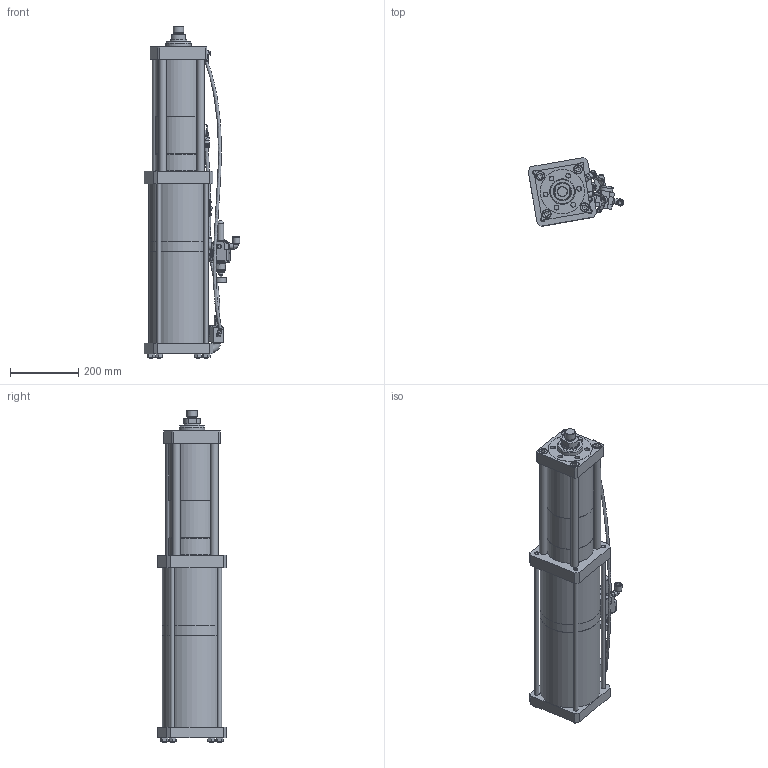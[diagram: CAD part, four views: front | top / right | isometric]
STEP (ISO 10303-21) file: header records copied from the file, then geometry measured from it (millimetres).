
FILE_DESCRIPTION (( 'STEP AP214' ), '1' );
FILE_NAME ('BS15-100-12A.STEP', '2025-01-22T03:00:04', ( '' ), ( '' ), 'SwSTEP 2.0', 'SolidWorks 2022', '' );
FILE_SCHEMA (( 'AUTOMOTIVE_DESIGN' ));
Length unit declared in the file: millimetre
Products named in the file (1): BS15-100-12A
Bounding box: 280.63 x 201.07 x 973 mm (x, y, z)
Surface area: 941920.4 mm2 (no closed solid volume)
Topology: 0 solids, 67 shells, 564 faces, 1537 edges, 1019 vertices
Faces by surface type: plane 320, cylinder 157, cone 61, torus 12, bspline 11, sphere 3
Full cylindrical faces by diameter (mm): 1 x1, 2.3 x1, 4 x2, 4.2 x1, 5 x3, 6 x1, 6.8 x4, 8 x1, 8.5 x2, 10 x4, 11 x1, 11.445 x1, 12 x8, 12.8 x2, 13 x5, 13.251 x1, 13.5 x3, 14 x12, 14.2 x1, 15.2 x2, 15.8 x2, 16 x3, 17 x1, 18 x2, 19 x1, 20.9 x2, 22 x7, 24 x12, 25 x1, 26 x6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
Entity records: 25402 total; most frequent: CARTESIAN_POINT 5828, DIRECTION 2830, ORIENTED_EDGE 2182, EDGE_CURVE 1335, AXIS2_PLACEMENT_3D 1076, VERTEX_POINT 989, EDGE_LOOP 884, FACE_OUTER_BOUND 690
